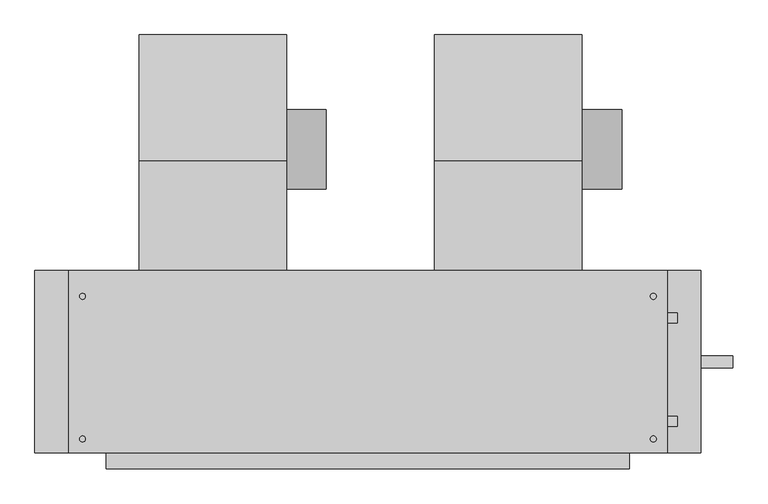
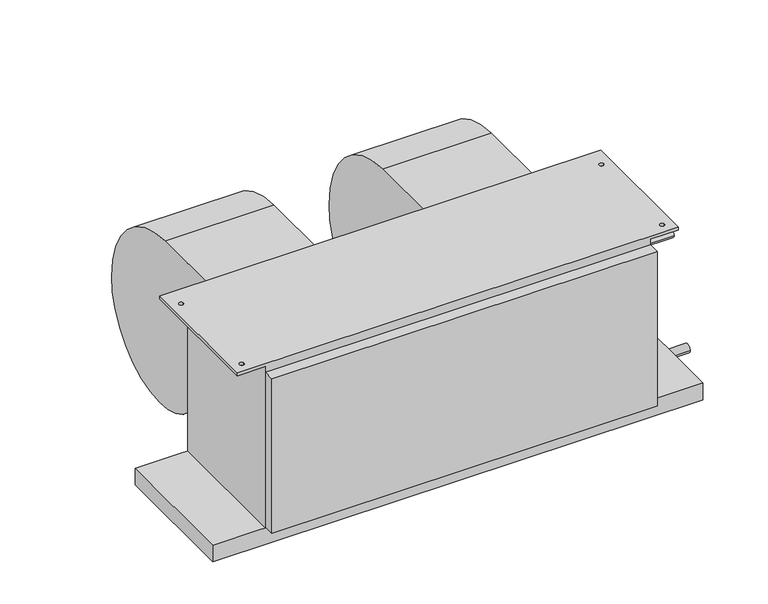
"""IFC4 building model written with IfcOpenShell, lengths in millimetres: proxy geometry, Concealed_High_Capacity_Horizontal_Fan_Coil_Unit_-_42DAA_-_CARRIER_-_2-Pipe_Cool-EHeat_RH_2022 : Size 14 - 277v/60Hz/1Ph - 6 Row 10.0kW."""

import ifcopenshell
import ifcopenshell.guid

model = None  # the IFC model being written
_history = None  # IfcOwnerHistory: only IFC2X3 demands one
_inside = {}  # id of a spatial element -> (the spatial element, [elements in it])
_under = {}  # id of a project, library or spatial element -> (it, [spatial elements below it])
_declared = {}  # id of a project -> (the project, [libraries it declares])
_typed = {}  # id of a type object -> (the type object, [elements of that type])
_made_of = {}  # id of a material, layer set ... -> (it, [elements and type objects made of it])


def new_model(schema):
    """Start an empty IFC model of exactly this schema.

    Asked for "IFC4X3", IfcOpenShell would pick the latest addendum, in which some entities
    have other attributes; the version numbers below select the first issue.
    IFC2X3 requires an IfcOwnerHistory on every rooted entity: one is made here for all.
    """
    global model, _history
    if schema == "IFC4X3":
        model = ifcopenshell.file(schema_version=(4, 3, 0, 0))
    else:
        model = ifcopenshell.file(schema=schema)
    _inside.clear()
    _under.clear()
    _declared.clear()
    _typed.clear()
    _made_of.clear()
    _history = None
    if model.schema == "IFC2X3":
        org = make("IfcOrganization", Name="unknown")
        user = make(
            "IfcPersonAndOrganization",
            ThePerson=make("IfcPerson", FamilyName="unknown"),
            TheOrganization=org,
        )
        app = make(
            "IfcApplication",
            ApplicationDeveloper=org,
            Version="unknown",
            ApplicationFullName="unknown",
            ApplicationIdentifier="unknown",
        )
        _history = make(
            "IfcOwnerHistory",
            OwningUser=user,
            OwningApplication=app,
            ChangeAction="ADDED",
            CreationDate=0,
        )
    return model


def make(cls, **values):
    """One entity of the class cls with the attributes given. An attribute that is None is left unset."""
    return model.create_entity(
        cls, **{name: value for name, value in values.items() if value is not None}
    )


def rooted(cls, **values):
    """An entity with a GlobalId (a new one), such as an element, a storey or a relation."""
    return make(cls, GlobalId=ifcopenshell.guid.new(), OwnerHistory=_history, **values)


def si_unit(unit_type, name, prefix=None):
    """IfcSIUnit, for example si_unit("LENGTHUNIT", "METRE", prefix="MILLI")."""
    return make("IfcSIUnit", UnitType=unit_type, Prefix=prefix, Name=name)


def assignment(units):
    """IfcUnitAssignment: the units of a project."""
    return None if units is None else make("IfcUnitAssignment", Units=units)


def point(xyz):
    """IfcCartesianPoint."""
    return None if xyz is None else make("IfcCartesianPoint", Coordinates=xyz)


def direction(xyz):
    """IfcDirection."""
    return None if xyz is None else make("IfcDirection", DirectionRatios=xyz)


def frame(location, z_axis=None, x_axis=None):
    """IfcAxis2Placement3D, a coordinate frame: its origin and axes. An axis left out is left unset."""
    return make(
        "IfcAxis2Placement3D",
        Location=point(location),
        Axis=direction(z_axis),
        RefDirection=direction(x_axis),
    )


def frame_2d(location, x_axis=None):
    """IfcAxis2Placement2D, a coordinate frame in the plane: its origin and x axis."""
    return make(
        "IfcAxis2Placement2D", Location=point(location), RefDirection=direction(x_axis)
    )


def origin():
    """The frame at (0, 0, 0) with its axes left unset."""
    return frame((0.0, 0.0, 0.0))


def place(relative_to, where):
    """IfcLocalPlacement: puts the frame where relative to a parent placement (None: the world)."""
    return make(
        "IfcLocalPlacement", PlacementRelTo=relative_to, RelativePlacement=where
    )


def context(
    kind, dimensions, precision=None, world=None, true_north=None, identifier=None
):
    """IfcGeometricRepresentationContext, for example the 3D "Model" context."""
    return make(
        "IfcGeometricRepresentationContext",
        ContextIdentifier=identifier,
        ContextType=kind,
        CoordinateSpaceDimension=dimensions,
        Precision=precision,
        WorldCoordinateSystem=world,
        TrueNorth=true_north,
    )


def project(units=None, contexts=None):
    """IfcProject with its units and contexts."""
    return rooted(
        "IfcProject",
        Name="project",
        RepresentationContexts=contexts,
        UnitsInContext=assignment(units),
    )


def spatial(cls, under=None, at=None, **own):
    """A site, building, storey or space (cls), placed at a placement, below another one or the project."""
    s = rooted(cls, ObjectPlacement=at, **own)
    if under is not None:
        _under.setdefault(under.id(), (under, []))[1].append(s)
    return s


def polyline(points):
    """IfcPolyline through the points."""
    return make("IfcPolyline", Points=[point(p) for p in points])


def circle_curve(where, radius):
    """IfcCircle in the frame where."""
    return make("IfcCircle", Position=where, Radius=radius)


def trimmed(basis, trim1, trim2, sense, master):
    """IfcTrimmedCurve: the piece of a basis curve between two trims."""
    return make(
        "IfcTrimmedCurve",
        BasisCurve=basis,
        Trim1=trim1,
        Trim2=trim2,
        SenseAgreement=sense,
        MasterRepresentation=master,
    )


def segment(curve, same_sense, transition):
    """IfcCompositeCurveSegment."""
    return make(
        "IfcCompositeCurveSegment",
        Transition=transition,
        SameSense=same_sense,
        ParentCurve=curve,
    )


def composite_curve(segments, self_intersect=None):
    """IfcCompositeCurve: segments joined end to end."""
    return make("IfcCompositeCurve", Segments=segments, SelfIntersect=self_intersect)


def outline(outer, holes=None, kind="AREA"):
    """IfcArbitraryClosedProfileDef: a profile drawn as a closed curve; with holes, ...WithVoids."""
    if holes is None:
        return make("IfcArbitraryClosedProfileDef", ProfileType=kind, OuterCurve=outer)
    return make(
        "IfcArbitraryProfileDefWithVoids",
        ProfileType=kind,
        OuterCurve=outer,
        InnerCurves=holes,
    )


def extrude(swept, where, along, depth):
    """IfcExtrudedAreaSolid: the profile swept, set in the frame where, extruded along a direction by depth."""
    return make(
        "IfcExtrudedAreaSolid",
        SweptArea=swept,
        Position=where,
        ExtrudedDirection=direction(along),
        Depth=depth,
    )


def shape(context_of_items, identifier, shape_type, items):
    """IfcShapeRepresentation: the items that make up one representation, for example the "Body"."""
    return make(
        "IfcShapeRepresentation",
        ContextOfItems=context_of_items,
        RepresentationIdentifier=identifier,
        RepresentationType=shape_type,
        Items=items,
    )


def source(mapping_origin, context_of_items, identifier, shape_type, items):
    """IfcRepresentationMap: a shape defined once, which mapped items show again and again."""
    return make(
        "IfcRepresentationMap",
        MappingOrigin=mapping_origin,
        MappedRepresentation=shape(context_of_items, identifier, shape_type, items),
    )


def transform(
    local_origin,
    x_axis=None,
    y_axis=None,
    z_axis=None,
    scale=None,
    scale2=None,
    scale3=None,
    uniform=True,
):
    """IfcCartesianTransformationOperator3D, or its non-uniform kind. x_axis, y_axis, z_axis: its Axis1, 2, 3."""
    if uniform:
        return make(
            "IfcCartesianTransformationOperator3D",
            Axis1=direction(x_axis),
            Axis2=direction(y_axis),
            LocalOrigin=point(local_origin),
            Scale=scale,
            Axis3=direction(z_axis),
        )
    return make(
        "IfcCartesianTransformationOperator3DnonUniform",
        Axis1=direction(x_axis),
        Axis2=direction(y_axis),
        LocalOrigin=point(local_origin),
        Scale=scale,
        Axis3=direction(z_axis),
        Scale2=scale2,
        Scale3=scale3,
    )


def mapped(mapping_source, mapping_target):
    """IfcMappedItem: shows the shape of a source again, moved by a transform."""
    return make(
        "IfcMappedItem", MappingSource=mapping_source, MappingTarget=mapping_target
    )


def made_of(thing, what):
    """Note that an element or type object is made of a material, layer set ...; save() writes the relation."""
    if what is not None:
        _made_of.setdefault(what.id(), (what, []))[1].append(thing)
    return thing


def element(
    cls,
    number,
    at=None,
    inside=None,
    cuts=None,
    type_object=None,
    material=None,
    context=None,
    identifier="Body",
    shape_type=None,
    held_by="IfcProductDefinitionShape",
    body=None,
    shapes=None,
    **own,
):
    """One element of the class cls, such as IfcWall. Its Tag is "e" and its number.

    at: its placement. inside: the storey or other place that contains it. cuts: it is an
    opening in that element (IfcRelVoidsElement). A single representation is given by context,
    identifier, shape_type and body (its items); several are given by shapes. held_by: the class
    of the entity that holds the representations. save() writes the other relations.
    """
    e = rooted(cls, Tag="e%d" % number, ObjectPlacement=at, **own)
    if body is not None:
        shapes = [shape(context, identifier, shape_type, body)]
    if shapes is not None:
        e.Representation = make(held_by, Representations=shapes)
    if inside is not None:
        _inside.setdefault(inside.id(), (inside, []))[1].append(e)
    if cuts is not None:
        rooted(
            "IfcRelVoidsElement", RelatingBuildingElement=cuts, RelatedOpeningElement=e
        )
    if type_object is not None:
        _typed.setdefault(type_object.id(), (type_object, []))[1].append(e)
    return made_of(e, material)


def aggregate(whole, parts):
    """IfcRelAggregates: a whole, such as a stair, and the parts it consists of."""
    return rooted("IfcRelAggregates", RelatingObject=whole, RelatedObjects=parts)


def save(model, path):
    """Write the relations noted so far, then the file.

    IfcRelAggregates (storeys below a building ...), IfcRelContainedInSpatialStructure (elements
    in a storey), IfcRelDefinesByType, IfcRelAssociatesMaterial and IfcRelDeclares: one each for
    every whole, place, type object, material and project.
    """
    for whole, parts in _under.values():
        aggregate(whole, parts)
    for where, things in _inside.values():
        rooted(
            "IfcRelContainedInSpatialStructure",
            RelatedElements=things,
            RelatingStructure=where,
        )
    for kind, things in _typed.values():
        rooted("IfcRelDefinesByType", RelatedObjects=things, RelatingType=kind)
    for what, things in _made_of.values():
        rooted("IfcRelAssociatesMaterial", RelatedObjects=things, RelatingMaterial=what)
    for by, libraries in _declared.values():
        rooted("IfcRelDeclares", RelatingContext=by, RelatedDefinitions=libraries)
    model.write(path)


def plane_surface(at):
    """IfcPlane: the flat surface through the origin of the frame at, square to its z axis."""
    return make("IfcPlane", Position=at)


def cylinder_surface(at, radius):
    """IfcCylindricalSurface: all points at the distance radius from the z axis of the frame at."""
    return make("IfcCylindricalSurface", Position=at, Radius=radius)


def revolved_surface(curve, axis_point, axis_direction):
    """IfcSurfaceOfRevolution: the curve turned about the line through axis_point along axis_direction."""
    return make(
        "IfcSurfaceOfRevolution",
        SweptCurve=make("IfcArbitraryOpenProfileDef", ProfileType="CURVE", Curve=curve),
        AxisPosition=make("IfcAxis1Placement", Location=point(axis_point), Axis=direction(axis_direction)),
    )


def advanced_brep(points, edges, surfaces, faces):
    """IfcAdvancedBrep: a solid bounded by faces that lie on surfaces and meet in shared edges.

    An edge is (start, end): straight between two places in points (the first is 0);
    or (start, end, curve); or (start, end, curve, False) where it runs against its curve.
    A face is (place in surfaces, loops), or (place, loops, False) where it looks against
    its surface's normal. A loop lists edges by number (the first is 1), with a minus sign
    where the edge is run from its end to its start. The first loop is the outer one.
    """
    corners = [point(p) for p in points]
    vertices = [make("IfcVertexPoint", VertexGeometry=c) for c in corners]
    made = []
    for start, end, *more in edges:
        made.append(
            make(
                "IfcEdgeCurve",
                EdgeStart=vertices[start],
                EdgeEnd=vertices[end],
                EdgeGeometry=more[0] if more else make("IfcPolyline", Points=[corners[start], corners[end]]),
                SameSense=more[1] if len(more) > 1 else True,
            )
        )
    hull = []
    for where, loops, *sense in faces:
        bounds = []
        for j, loop in enumerate(loops):
            ring = [make("IfcOrientedEdge", EdgeElement=made[abs(k) - 1], Orientation=k > 0) for k in loop]
            bounds.append(
                make(
                    "IfcFaceOuterBound" if j == 0 else "IfcFaceBound",
                    Bound=make("IfcEdgeLoop", EdgeList=ring),
                    Orientation=True,
                )
            )
        hull.append(make("IfcAdvancedFace", Bounds=bounds, FaceSurface=surfaces[where], SameSense=sense[0] if sense else True))
    return make("IfcAdvancedBrep", Outer=make("IfcClosedShell", CfsFaces=hull))


def mechanical_equipment_d3091ad7(model_context):
    return source(origin(), model_context, "Body", "SolidModel", [
        extrude(outline(composite_curve([segment(trimmed(circle_curve(frame_2d((102.0007598, -206.8897468)), 63.5), [point((165.5007598, -206.8897468))], [point((38.5007598, -206.8897468))], False, "CARTESIAN"), True, "CONTINUOUS"), segment(trimmed(circle_curve(frame_2d((102.0007598, -206.8897468)), 63.5), [point((38.5007598, -206.8897468))], [point((165.5007598, -206.8897468))], False, "CARTESIAN"), True, "CONTINUOUS")], self_intersect=False)), frame((22.225, 0.0, 0.0), z_axis=(1.0, 0.0, 0.0), x_axis=(0.0, 1.0, 0.0)), (0.0, 0.0, 1.0), 63.5),
        advanced_brep(
        [(-214.249, 285.5155957, -222.029602), (-214.249, 104.6226, -403.64664), (-214.249, -50.9016, -277.10638), (-214.249, -92.075, -277.10638), (-214.249, -92.075, -19.05), (-214.249, 83.0080093, -19.05), (22.225, 285.5155957, -222.029602), (22.225, 83.0080093, -19.05), (22.225, -92.075, -19.05), (22.225, -92.075, -277.10638), (22.225, -50.9016, -277.10638), (22.225, 104.622599, -403.6457839)],
        [
            (0, 1, circle_curve(frame((-214.249, 104.44226, -222.57258), z_axis=(-1.0, 0.0, 0.0), x_axis=(0.0, -1.0, 0.0)), 181.0741498)),
            (1, 2, circle_curve(frame((-214.249, 104.44226, -245.02364), z_axis=(-1.0, 0.0, 0.0), x_axis=(0.0, -1.0, 0.0)), 158.6222464)),
            (2, 3),
            (3, 4),
            (4, 5),
            (5, 0, circle_curve(frame((-214.249, 81.9912, -222.57258), z_axis=(-1.0, 0.0, 0.0), x_axis=(0.0, -1.0, 0.0)), 203.52512)),
            (6, 7, circle_curve(frame((22.225, 81.9912, -222.57258), z_axis=(1.0, 0.0, 0.0), x_axis=(0.0, -1.0, 0.0)), 203.52512)),
            (7, 8),
            (8, 9),
            (9, 10),
            (10, 11, circle_curve(frame((22.225, 104.44226, -245.02364), z_axis=(1.0, 0.0, 0.0), x_axis=(0.0, -1.0, 0.0)), 158.6222464)),
            (11, 6, circle_curve(frame((22.225, 104.44226, -222.57258), z_axis=(1.0, 0.0, 0.0), x_axis=(0.0, -1.0, 0.0)), 181.0741498)),
            (0, 6),
            (11, 1),
            (10, 2),
            (9, 3),
            (8, 4),
            (7, 5),
        ],
        [
            plane_surface(frame((-214.249, -76.6318898, -222.57258), z_axis=(-1.0, 0.0, 0.0), x_axis=(0.0, 0.0, 1.0))),
            plane_surface(frame((22.225, -76.6318898, -222.57258), z_axis=(1.0, 0.0, 0.0), x_axis=(0.0, 0.0, -1.0))),
            cylinder_surface(frame((22.225, 104.44226, -222.57258), z_axis=(-1.0, 0.0, 0.0), x_axis=(0.0, -1.0, 0.0)), 181.0741498),
            cylinder_surface(frame((22.225, 104.44226, -245.02364), z_axis=(-1.0, 0.0, 0.0), x_axis=(0.0, -1.0, 0.0)), 158.6222464),
            plane_surface(frame((-214.249, -50.9016, -277.10638), z_axis=(0.0, 0.0, -1.0), x_axis=(1.0, 0.0, 0.0))),
            plane_surface(frame((-214.249, -92.075, -277.10638), z_axis=(0.0, -1.0, 0.0), x_axis=(1.0, 0.0, 0.0))),
            plane_surface(frame((-214.249, -92.075, -19.05), z_axis=(0.0, 0.0, 1.0), x_axis=(1.0, 0.0, 0.0))),
            cylinder_surface(frame((22.225, 81.9912, -222.57258), z_axis=(-1.0, 0.0, 0.0), x_axis=(0.0, -1.0, 0.0)), 203.52512),
        ],
        [
            (0, [[1, 2, 3, 4, 5, 6]]),
            (1, [[7, 8, 9, 10, 11, 12]]),
            (2, [[-1, 13, -12, 14]]),
            (3, [[-2, -14, -11, 15]]),
            (4, [[-3, -15, -10, 16]]),
            (5, [[-4, -16, -9, 17]]),
            (6, [[-5, -17, -8, 18]]),
            (7, [[-6, -18, -7, -13]]),
        ],
    ),
        extrude(outline(composite_curve([segment(trimmed(circle_curve(frame_2d((102.0007598, -206.8897468)), 63.5), [point((165.5007598, -206.8897468))], [point((38.5007598, -206.8897468))], False, "CARTESIAN"), True, "CONTINUOUS"), segment(trimmed(circle_curve(frame_2d((102.0007598, -206.8897468)), 63.5), [point((38.5007598, -206.8897468))], [point((165.5007598, -206.8897468))], False, "CARTESIAN"), True, "CONTINUOUS")], self_intersect=False)), frame((495.3, 0.0, 0.0), z_axis=(1.0, 0.0, 0.0), x_axis=(0.0, 1.0, 0.0)), (0.0, 0.0, 1.0), 63.5),
        advanced_brep(
        [(258.826, 285.5155957, -222.029602), (258.826, 104.6226, -403.64664), (258.826, -50.9016, -277.10638), (258.826, -92.075, -277.10638), (258.826, -92.075, -19.05), (258.826, 83.0080093, -19.05), (495.3, 285.5155957, -222.029602), (495.3, 83.0080093, -19.05), (495.3, -92.075, -19.05), (495.3, -92.075, -277.10638), (495.3, -50.9016, -277.10638), (495.3, 104.622599, -403.6457839)],
        [
            (0, 1, circle_curve(frame((258.826, 104.44226, -222.57258), z_axis=(-1.0, 0.0, 0.0), x_axis=(0.0, -1.0, 0.0)), 181.0741498)),
            (1, 2, circle_curve(frame((258.826, 104.44226, -245.02364), z_axis=(-1.0, 0.0, 0.0), x_axis=(0.0, -1.0, 0.0)), 158.6222464)),
            (2, 3),
            (3, 4),
            (4, 5),
            (5, 0, circle_curve(frame((258.826, 81.9912, -222.57258), z_axis=(-1.0, 0.0, 0.0), x_axis=(0.0, -1.0, 0.0)), 203.52512)),
            (6, 7, circle_curve(frame((495.3, 81.9912, -222.57258), z_axis=(1.0, 0.0, 0.0), x_axis=(0.0, -1.0, 0.0)), 203.52512)),
            (7, 8),
            (8, 9),
            (9, 10),
            (10, 11, circle_curve(frame((495.3, 104.44226, -245.02364), z_axis=(1.0, 0.0, 0.0), x_axis=(0.0, -1.0, 0.0)), 158.6222464)),
            (11, 6, circle_curve(frame((495.3, 104.44226, -222.57258), z_axis=(1.0, 0.0, 0.0), x_axis=(0.0, -1.0, 0.0)), 181.0741498)),
            (0, 6),
            (11, 1),
            (10, 2),
            (9, 3),
            (8, 4),
            (7, 5),
        ],
        [
            plane_surface(frame((258.826, -76.6318898, -222.57258), z_axis=(-1.0, 0.0, 0.0), x_axis=(0.0, 0.0, 1.0))),
            plane_surface(frame((495.3, -76.6318898, -222.57258), z_axis=(1.0, 0.0, 0.0), x_axis=(0.0, 0.0, -1.0))),
            cylinder_surface(frame((495.3, 104.44226, -222.57258), z_axis=(-1.0, 0.0, 0.0), x_axis=(0.0, -1.0, 0.0)), 181.0741498),
            cylinder_surface(frame((495.3, 104.44226, -245.02364), z_axis=(-1.0, 0.0, 0.0), x_axis=(0.0, -1.0, 0.0)), 158.6222464),
            plane_surface(frame((258.826, -50.9016, -277.10638), z_axis=(0.0, 0.0, -1.0), x_axis=(1.0, 0.0, 0.0))),
            plane_surface(frame((258.826, -92.075, -277.10638), z_axis=(0.0, -1.0, 0.0), x_axis=(1.0, 0.0, 0.0))),
            plane_surface(frame((258.826, -92.075, -19.05), z_axis=(0.0, 0.0, 1.0), x_axis=(1.0, 0.0, 0.0))),
            cylinder_surface(frame((495.3, 81.9912, -222.57258), z_axis=(-1.0, 0.0, 0.0), x_axis=(0.0, -1.0, 0.0)), 203.52512),
        ],
        [
            (0, [[1, 2, 3, 4, 5, 6]]),
            (1, [[7, 8, 9, 10, 11, 12]]),
            (2, [[-1, 13, -12, 14]]),
            (3, [[-2, -14, -11, 15]]),
            (4, [[-3, -15, -10, 16]]),
            (5, [[-4, -16, -9, 17]]),
            (6, [[-5, -17, -8, 18]]),
            (7, [[-6, -18, -7, -13]]),
        ],
    ),
        advanced_brep(
        [(571.5, -92.075, -377.825), (571.5, -384.175, -377.825), (-266.7, -384.175, -377.825), (-266.7, -92.075, -377.825), (-266.7, -384.175, -6.35), (-266.7, -92.075, -6.35), (571.5, -92.075, -6.35), (571.5, -384.175, -6.35), (631.825, -92.075, -6.35), (631.825, -384.175, -6.35), (604.8375, -133.35, -6.35), (614.3625, -133.35, -6.35), (604.8375, -361.95, -6.35), (614.3625, -361.95, -6.35), (-327.025, -92.075, -6.35), (-327.025, -384.175, -6.35), (-309.5625, -133.35, -6.35), (-300.0375, -133.35, -6.35), (-309.5625, -361.95, -6.35), (-300.0375, -361.95, -6.35), (631.825, -384.175, 0.0), (631.825, -92.075, 0.0), (-327.025, -92.075, 0.0), (-327.025, -384.175, 0.0), (-300.0375, -133.35, 0.0), (-309.5625, -133.35, 0.0), (-300.0375, -361.95, 0.0), (-309.5625, -361.95, 0.0), (614.3625, -133.35, 0.0), (604.8375, -133.35, 0.0), (614.3625, -361.95, 0.0), (604.8375, -361.95, 0.0)],
        [
            (0, 1),
            (1, 2),
            (2, 3),
            (3, 0),
            (2, 4),
            (4, 5),
            (5, 3),
            (0, 6),
            (6, 7),
            (7, 1),
            (8, 9),
            (9, 7),
            (6, 8),
            (10, 11, circle_curve(frame((609.6, -133.35, -6.35), z_axis=(0.0, 0.0, 1.0), x_axis=(1.0, 0.0, 0.0)), 4.7625)),
            (11, 10, circle_curve(frame((609.6, -133.35, -6.35), z_axis=(0.0, 0.0, 1.0), x_axis=(1.0, 0.0, 0.0)), 4.7625)),
            (12, 13, circle_curve(frame((609.6, -361.95, -6.35), z_axis=(0.0, 0.0, 1.0), x_axis=(1.0, 0.0, 0.0)), 4.7625)),
            (13, 12, circle_curve(frame((609.6, -361.95, -6.35), z_axis=(0.0, 0.0, 1.0), x_axis=(1.0, 0.0, 0.0)), 4.7625)),
            (14, 5),
            (4, 15),
            (15, 14),
            (16, 17, circle_curve(frame((-304.8, -133.35, -6.35), z_axis=(0.0, 0.0, 1.0), x_axis=(1.0, 0.0, 0.0)), 4.7625)),
            (17, 16, circle_curve(frame((-304.8, -133.35, -6.35), z_axis=(0.0, 0.0, 1.0), x_axis=(1.0, 0.0, 0.0)), 4.7625)),
            (18, 19, circle_curve(frame((-304.8, -361.95, -6.35), z_axis=(0.0, 0.0, 1.0), x_axis=(1.0, 0.0, 0.0)), 4.7625)),
            (19, 18, circle_curve(frame((-304.8, -361.95, -6.35), z_axis=(0.0, 0.0, 1.0), x_axis=(1.0, 0.0, 0.0)), 4.7625)),
            (20, 21),
            (21, 22),
            (22, 23),
            (23, 20),
            (24, 25, circle_curve(frame((-304.8, -133.35, 0.0), z_axis=(0.0, 0.0, -1.0), x_axis=(1.0, 0.0, 0.0)), 4.7625)),
            (25, 24, circle_curve(frame((-304.8, -133.35, 0.0), z_axis=(0.0, 0.0, -1.0), x_axis=(1.0, 0.0, 0.0)), 4.7625)),
            (26, 27, circle_curve(frame((-304.8, -361.95, 0.0), z_axis=(0.0, 0.0, -1.0), x_axis=(1.0, 0.0, 0.0)), 4.7625)),
            (27, 26, circle_curve(frame((-304.8, -361.95, 0.0), z_axis=(0.0, 0.0, -1.0), x_axis=(1.0, 0.0, 0.0)), 4.7625)),
            (28, 29, circle_curve(frame((609.6, -133.35, 0.0), z_axis=(0.0, 0.0, -1.0), x_axis=(1.0, 0.0, 0.0)), 4.7625)),
            (29, 28, circle_curve(frame((609.6, -133.35, 0.0), z_axis=(0.0, 0.0, -1.0), x_axis=(1.0, 0.0, 0.0)), 4.7625)),
            (30, 31, circle_curve(frame((609.6, -361.95, 0.0), z_axis=(0.0, 0.0, -1.0), x_axis=(1.0, 0.0, 0.0)), 4.7625)),
            (31, 30, circle_curve(frame((609.6, -361.95, 0.0), z_axis=(0.0, 0.0, -1.0), x_axis=(1.0, 0.0, 0.0)), 4.7625)),
            (14, 22),
            (21, 8),
            (9, 20),
            (23, 15),
            (24, 17),
            (16, 25),
            (26, 19),
            (18, 27),
            (28, 11),
            (10, 29),
            (30, 13),
            (12, 31),
        ],
        [
            plane_surface(frame((-266.7, -92.075, -377.825), z_axis=(0.0, 0.0, -1.0), x_axis=(1.0, 0.0, 0.0))),
            plane_surface(frame((-266.7, -92.075, 0.0), z_axis=(-1.0, 0.0, 0.0), x_axis=(0.0, 0.0, -1.0))),
            plane_surface(frame((571.5, -384.175, 0.0), z_axis=(1.0, 0.0, 0.0), x_axis=(0.0, 0.0, -1.0))),
            plane_surface(frame((571.5, -92.075, -6.35), z_axis=(0.0, 0.0, -1.0), x_axis=(1.0, 0.0, 0.0))),
            plane_surface(frame((571.5, -92.075, 0.0), z_axis=(0.0, 0.0, 1.0), x_axis=(-1.0, 0.0, 0.0))),
            plane_surface(frame((631.825, -92.075, 0.0), z_axis=(0.0, 1.0, 0.0), x_axis=(0.0, 0.0, -1.0))),
            plane_surface(frame((571.5, -384.175, 0.0), z_axis=(0.0, -1.0, 0.0), x_axis=(0.0, 0.0, -1.0))),
            plane_surface(frame((631.825, -384.175, 0.0), z_axis=(1.0, 0.0, 0.0), x_axis=(0.0, 0.0, -1.0))),
            plane_surface(frame((-327.025, -92.075, 0.0), z_axis=(-1.0, 0.0, 0.0), x_axis=(0.0, 0.0, -1.0))),
            revolved_surface(polyline([(-300.0375, -133.35, 0.0), (-300.0375, -133.35, -6.35)]), (-304.8, -133.35, -6.35), (0.0, 0.0, 1.0)),
            revolved_surface(polyline([(-300.0375, -361.95, 0.0), (-300.0375, -361.95, -6.35)]), (-304.8, -361.95, 0.0), (0.0, 0.0, 1.0)),
            revolved_surface(polyline([(614.3625000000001, -133.35, 0.0), (614.3625000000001, -133.35, -6.35)]), (609.6, -133.35, 0.0), (0.0, 0.0, 1.0)),
            revolved_surface(polyline([(614.3625000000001, -361.95, 0.0), (614.3625000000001, -361.95, -6.35)]), (609.6, -361.95, 0.0), (0.0, 0.0, 1.0)),
        ],
        [
            (0, [[1, 2, 3, 4]]),
            (1, [[-3, 5, 6, 7]]),
            (2, [[-1, 8, 9, 10]]),
            (3, [[11, 12, -9, 13], [14, 15], [16, 17]]),
            (3, [[18, -6, 19, 20], [21, 22], [23, 24]]),
            (4, [[25, 26, 27, 28], [29, 30], [31, 32], [33, 34], [35, 36]]),
            (5, [[-13, -8, -4, -7, -18, 37, -26, 38]]),
            (6, [[-12, 39, -28, 40, -19, -5, -2, -10]]),
            (7, [[-11, -38, -25, -39]]),
            (8, [[-20, -40, -27, -37]]),
            (9, [[41, -21, 42, -29]]),
            (9, [[-41, -30, -42, -22]]),
            (10, [[43, -23, 44, -31]]),
            (10, [[-43, -32, -44, -24]]),
            (11, [[45, -14, 46, -33]]),
            (11, [[-45, -34, -46, -15]]),
            (12, [[47, -16, 48, -35]]),
            (12, [[-47, -36, -48, -17]]),
        ],
    ),
        extrude(outline(composite_curve([segment(trimmed(circle_curve(frame_2d((-238.125, -403.225)), 9.525), [point((-228.6, -403.225))], [point((-247.65, -403.225))], False, "CARTESIAN"), True, "CONTINUOUS"), segment(trimmed(circle_curve(frame_2d((-238.125, -403.225)), 9.525), [point((-247.65, -403.225))], [point((-228.6, -403.225))], False, "CARTESIAN"), True, "CONTINUOUS")], self_intersect=False)), frame((685.8, 0.0, 0.0), z_axis=(1.0, 0.0, 0.0), x_axis=(0.0, 1.0, 0.0)), (0.0, 0.0, 1.0), 50.8),
        extrude(outline(composite_curve([segment(trimmed(circle_curve(frame_2d((-333.375, -50.8)), 7.9375), [point((-325.4375, -50.8))], [point((-341.3125, -50.8))], False, "CARTESIAN"), True, "CONTINUOUS"), segment(trimmed(circle_curve(frame_2d((-333.375, -50.8)), 7.9375), [point((-341.3125, -50.8))], [point((-325.4375, -50.8))], False, "CARTESIAN"), True, "CONTINUOUS")], self_intersect=False)), frame((571.5, 0.0, 0.0), z_axis=(1.0, 0.0, 0.0), x_axis=(0.0, 1.0, 0.0)), (0.0, 0.0, 1.0), 76.2),
        extrude(outline(composite_curve([segment(trimmed(circle_curve(frame_2d((-168.275, -327.025)), 7.9375), [point((-160.3375, -327.025))], [point((-176.2125, -327.025))], False, "CARTESIAN"), True, "CONTINUOUS"), segment(trimmed(circle_curve(frame_2d((-168.275, -327.025)), 7.9375), [point((-176.2125, -327.025))], [point((-160.3375, -327.025))], False, "CARTESIAN"), True, "CONTINUOUS")], self_intersect=False)), frame((571.5, 0.0, 0.0), z_axis=(1.0, 0.0, 0.0), x_axis=(0.0, 1.0, 0.0)), (0.0, 0.0, 1.0), 76.2),
        extrude(outline(polyline([(571.5, -409.575), (-266.7, -409.575), (-266.7, -384.175), (571.5, -384.175), (571.5, -409.575)])), frame((0.0, 0.0, -374.65), z_axis=(0.0, 0.0, 1.0), x_axis=(1.0, 0.0, 0.0)), (0.0, 0.0, 1.0), 355.6),
        extrude(outline(polyline([(685.8, -92.075), (685.8, -384.175), (-381.0, -384.175), (-381.0, -92.075), (685.8, -92.075)])), frame((0.0, 0.0, -415.925), z_axis=(0.0, 0.0, 1.0), x_axis=(1.0, 0.0, 0.0)), (0.0, 0.0, 1.0), 38.1),
    ])


if __name__ == "__main__":
    model = new_model("IFC4")
    model_context = context("Model", 3, world=origin())
    ifc_project = project(units=[si_unit("LENGTHUNIT", "METRE", prefix="MILLI")], contexts=[model_context])
    site = spatial("IfcSite", under=ifc_project)
    building = spatial("IfcBuilding", under=site)
    placement = place(None, origin())
    mechanical_equipment_shape = mechanical_equipment_d3091ad7(model_context)
    element("IfcBuildingElementProxy", 1, Name="Concealed_High_Capacity_Horizontal_Fan_Coil_Unit_-_42DAA_-_CARRIER_-_2-Pipe_Cool-EHeat_RH_2022 : Size 14 - 277v/60Hz/1Ph - 6 Row 10.0kW", ObjectType="Concealed_High_Capacity_Horizontal_Fan_Coil_Unit_-_42DAA_-_CARRIER_-_2-Pipe_Cool-EHeat_RH_2022 : Size 14 - 277v/60Hz/1Ph - 6 Row 10.0kW", at=placement, inside=building, context=model_context, shape_type="MappedRepresentation", body=[
        mapped(mechanical_equipment_shape, transform((0.0, 0.0, 0.0), x_axis=(1.0, 0.0, 0.0), y_axis=(0.0, 1.0, 0.0), z_axis=(0.0, 0.0, 1.0))),
    ])
    save(model, "model.ifc")
